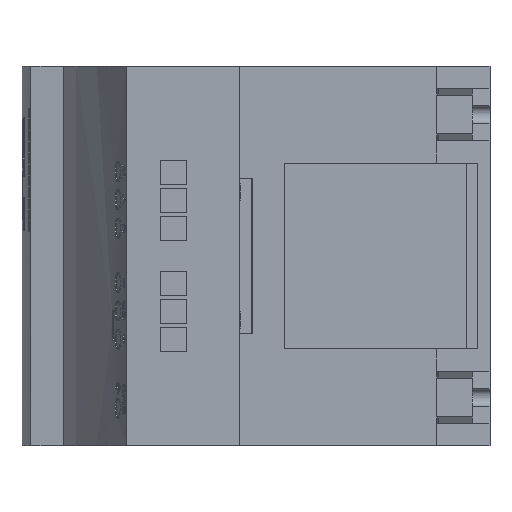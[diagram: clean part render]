
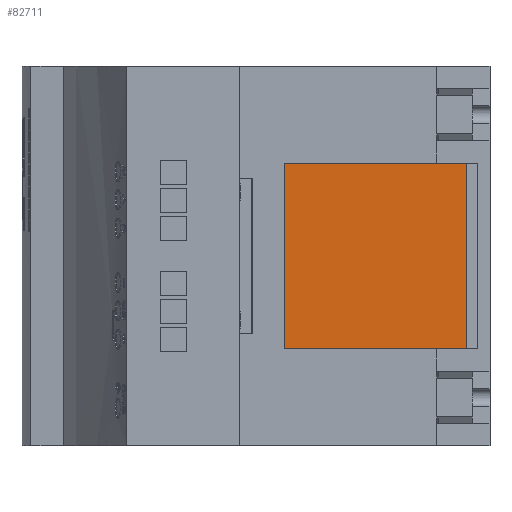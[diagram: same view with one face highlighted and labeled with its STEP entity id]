
A CAD part, front view. The second image highlights one B-rep face of the part: STEP entity #82711.
In plain terms, the highlighted planar face has unit normal (-0.035, -0.999, 0).
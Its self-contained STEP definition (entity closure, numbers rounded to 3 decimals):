
#3410 = CARTESIAN_POINT ( 'NONE',  ( 106.626, -56.945, 127.29 ) ) ;
#3975 = EDGE_CURVE ( 'NONE', #35248, #54992, #62760, .T. ) ;
#6062 = DIRECTION ( 'NONE',  ( 0., 0., -1. ) ) ;
#7966 = DIRECTION ( 'NONE',  ( 0.035, 0.999, 0. ) ) ;
#16589 = FACE_OUTER_BOUND ( 'NONE', #94194, .T. ) ;
#21225 = ORIENTED_EDGE ( 'NONE', *, *, #65893, .T. ) ;
#21313 = CARTESIAN_POINT ( 'NONE',  ( 24.627, -54.081, 127.29 ) ) ;
#22944 = VECTOR ( 'NONE', #6062, 1000. ) ;
#28034 = CARTESIAN_POINT ( 'NONE',  ( 24.627, -54.081, 43.79 ) ) ;
#34438 = CARTESIAN_POINT ( 'NONE',  ( 106.626, -56.945, 43.79 ) ) ;
#35248 = VERTEX_POINT ( 'NONE', #3410 ) ;
#35723 = DIRECTION ( 'NONE',  ( 0., 0., -1. ) ) ;
#36462 = AXIS2_PLACEMENT_3D ( 'NONE', #76844, #7966, #38095 ) ;
#36993 = CARTESIAN_POINT ( 'NONE',  ( 24.627, -54.081, 43.79 ) ) ;
#37541 = DIRECTION ( 'NONE',  ( -0.999, 0.035, 0. ) ) ;
#38095 = DIRECTION ( 'NONE',  ( -0.999, 0.035, 0. ) ) ;
#40674 = EDGE_CURVE ( 'NONE', #35248, #94182, #66059, .T. ) ;
#42671 = EDGE_CURVE ( 'NONE', #54992, #82511, #74787, .T. ) ;
#50764 = CARTESIAN_POINT ( 'NONE',  ( 24.627, -54.081, 127.29 ) ) ;
#52201 = ORIENTED_EDGE ( 'NONE', *, *, #42671, .T. ) ;
#54992 = VERTEX_POINT ( 'NONE', #50764 ) ;
#62760 = LINE ( 'NONE', #21313, #83277 ) ;
#65893 = EDGE_CURVE ( 'NONE', #82511, #94182, #85341, .T. ) ;
#66059 = LINE ( 'NONE', #66066, #70787 ) ;
#66066 = CARTESIAN_POINT ( 'NONE',  ( 106.626, -56.945, 33.54 ) ) ;
#68611 = ORIENTED_EDGE ( 'NONE', *, *, #40674, .F. ) ;
#70787 = VECTOR ( 'NONE', #35723, 1000. ) ;
#74787 = LINE ( 'NONE', #28034, #22944 ) ;
#75066 = DIRECTION ( 'NONE',  ( 0.999, -0.035, 0. ) ) ;
#76844 = CARTESIAN_POINT ( 'NONE',  ( -1.856, -53.157, 0. ) ) ;
#77198 = PLANE ( 'NONE',  #36462 ) ;
#81271 = CARTESIAN_POINT ( 'NONE',  ( 24.627, -54.081, 43.79 ) ) ;
#82511 = VERTEX_POINT ( 'NONE', #81271 ) ;
#82711 = ADVANCED_FACE ( 'NONE', ( #16589 ), #77198, .F. ) ;
#83277 = VECTOR ( 'NONE', #37541, 1000. ) ;
#85341 = LINE ( 'NONE', #36993, #91374 ) ;
#88789 = ORIENTED_EDGE ( 'NONE', *, *, #3975, .T. ) ;
#91374 = VECTOR ( 'NONE', #75066, 1000. ) ;
#94182 = VERTEX_POINT ( 'NONE', #34438 ) ;
#94194 = EDGE_LOOP ( 'NONE', ( #88789, #52201, #21225, #68611 ) ) ;
